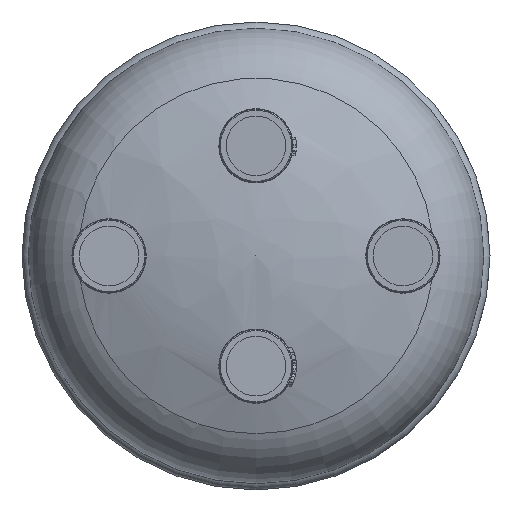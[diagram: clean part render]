
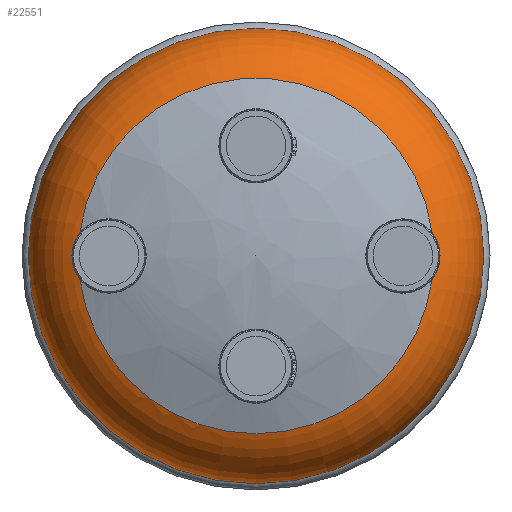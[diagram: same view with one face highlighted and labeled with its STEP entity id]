
A CAD part, front view. The second image highlights one B-rep face of the part: STEP entity #22551.
In plain terms, the highlighted toroidal (fillet/blend) face has major radius 40 mm and minor radius 22 mm.
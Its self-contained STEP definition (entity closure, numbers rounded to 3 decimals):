
#1156=TOROIDAL_SURFACE('',#23939,40.,22.);
#1182=FACE_BOUND('',#4160,.T.);
#1816=B_SPLINE_CURVE_WITH_KNOTS('',3,(#31731,#31732,#31733,#31734,#31735,
#31736,#31737,#31738),.UNSPECIFIED.,.F.,.F.,(4,2,2,4),(-1.351,
-1.061,-0.776,-0.676),.UNSPECIFIED.);
#1824=B_SPLINE_CURVE_WITH_KNOTS('',3,(#31827,#31828,#31829,#31830,#31831,
#31832),.UNSPECIFIED.,.F.,.F.,(4,2,4),(-0.676,-0.399,
0.),.UNSPECIFIED.);
#1827=B_SPLINE_CURVE_WITH_KNOTS('',3,(#31842,#31843,#31844,#31845,#31846,
#31847,#31848,#31849),.UNSPECIFIED.,.F.,.F.,(4,2,2,4),(-1.351,
-1.061,-0.776,-0.676),.UNSPECIFIED.);
#1828=B_SPLINE_CURVE_WITH_KNOTS('',3,(#31851,#31852,#31853,#31854,#31855,
#31856),.UNSPECIFIED.,.F.,.F.,(4,2,4),(-0.676,-0.399,
0.),.UNSPECIFIED.);
#2824=FACE_OUTER_BOUND('',#4159,.T.);
#4159=EDGE_LOOP('',(#15528));
#4160=EDGE_LOOP('',(#15529,#15530,#15531,#15532,#15533,#15534,#15535));
#5604=CIRCLE('',#23890,48.372);
#5605=CIRCLE('',#23891,48.372);
#5606=CIRCLE('',#23892,48.372);
#5621=CIRCLE('',#23940,62.);
#9410=VERTEX_POINT('',#31509);
#9411=VERTEX_POINT('',#31513);
#9412=VERTEX_POINT('',#31525);
#9413=VERTEX_POINT('',#31534);
#9415=VERTEX_POINT('',#31561);
#9422=VERTEX_POINT('',#31726);
#9428=VERTEX_POINT('',#31826);
#9429=VERTEX_POINT('',#31864);
#11796=EDGE_CURVE('',#9410,#9411,#5604,.T.);
#11799=EDGE_CURVE('',#9412,#9413,#5605,.T.);
#11803=EDGE_CURVE('',#9415,#9410,#5606,.T.);
#11825=EDGE_CURVE('',#9415,#9422,#1816,.T.);
#11848=EDGE_CURVE('',#9428,#9411,#1824,.T.);
#11851=EDGE_CURVE('',#9412,#9428,#1827,.T.);
#11852=EDGE_CURVE('',#9422,#9413,#1828,.T.);
#11854=EDGE_CURVE('',#9429,#9429,#5621,.T.);
#15528=ORIENTED_EDGE('',*,*,#11854,.T.);
#15529=ORIENTED_EDGE('',*,*,#11848,.T.);
#15530=ORIENTED_EDGE('',*,*,#11796,.F.);
#15531=ORIENTED_EDGE('',*,*,#11803,.F.);
#15532=ORIENTED_EDGE('',*,*,#11825,.T.);
#15533=ORIENTED_EDGE('',*,*,#11852,.T.);
#15534=ORIENTED_EDGE('',*,*,#11799,.F.);
#15535=ORIENTED_EDGE('',*,*,#11851,.T.);
#22551=ADVANCED_FACE('',(#2824,#1182),#1156,.T.);
#23890=AXIS2_PLACEMENT_3D('',#31514,#25782,#25783);
#23891=AXIS2_PLACEMENT_3D('',#31535,#25784,#25785);
#23892=AXIS2_PLACEMENT_3D('',#31570,#25786,#25787);
#23939=AXIS2_PLACEMENT_3D('',#31863,#25888,#25889);
#23940=AXIS2_PLACEMENT_3D('',#31865,#25890,#25891);
#25782=DIRECTION('center_axis',(0.,-1.,0.));
#25783=DIRECTION('ref_axis',(1.,0.,0.));
#25784=DIRECTION('center_axis',(0.,-1.,0.));
#25785=DIRECTION('ref_axis',(1.,0.,0.));
#25786=DIRECTION('center_axis',(0.,-1.,0.));
#25787=DIRECTION('ref_axis',(1.,0.,0.));
#25888=DIRECTION('center_axis',(0.,-1.,0.));
#25889=DIRECTION('ref_axis',(0.,0.,
1.));
#25890=DIRECTION('center_axis',(0.,-1.,0.));
#25891=DIRECTION('ref_axis',(1.,0.,0.));
#31509=CARTESIAN_POINT('',(0.,-40.445,-48.372));
#31513=CARTESIAN_POINT('',(47.973,-40.445,-6.2));
#31514=CARTESIAN_POINT('Origin',(0.,-40.445,
0.));
#31525=CARTESIAN_POINT('',(47.973,-40.445,6.2));
#31534=CARTESIAN_POINT('',(-47.973,-40.445,6.2));
#31535=CARTESIAN_POINT('Origin',(0.,-40.445,
0.));
#31561=CARTESIAN_POINT('',(-47.973,-40.445,-6.2));
#31570=CARTESIAN_POINT('Origin',(0.,-40.445,
0.));
#31726=CARTESIAN_POINT('',(-50.1,-39.645,0.));
#31731=CARTESIAN_POINT('Ctrl Pts',(-47.973,-40.445,
-6.2));
#31732=CARTESIAN_POINT('Ctrl Pts',(-48.554,-40.247,
-5.453));
#31733=CARTESIAN_POINT('Ctrl Pts',(-49.031,-40.068,
-4.623));
#31734=CARTESIAN_POINT('Ctrl Pts',(-49.732,-39.796,
-2.86));
#31735=CARTESIAN_POINT('Ctrl Pts',(-49.957,-39.703,
-1.94));
#31736=CARTESIAN_POINT('Ctrl Pts',(-50.084,-39.651,
-0.664));
#31737=CARTESIAN_POINT('Ctrl Pts',(-50.1,-39.645,-0.331));
#31738=CARTESIAN_POINT('Ctrl Pts',(-50.1,-39.645,0.));
#31826=CARTESIAN_POINT('',(50.1,-39.645,0.));
#31827=CARTESIAN_POINT('Ctrl Pts',(50.1,-39.645,0.));
#31828=CARTESIAN_POINT('Ctrl Pts',(50.1,-39.645,-0.92));
#31829=CARTESIAN_POINT('Ctrl Pts',(49.975,-39.697,-1.834));
#31830=CARTESIAN_POINT('Ctrl Pts',(49.371,-39.938,-3.994));
#31831=CARTESIAN_POINT('Ctrl Pts',(48.772,-40.173,-5.173));
#31832=CARTESIAN_POINT('Ctrl Pts',(47.973,-40.445,-6.2));
#31842=CARTESIAN_POINT('Ctrl Pts',(47.973,-40.445,6.2));
#31843=CARTESIAN_POINT('Ctrl Pts',(48.554,-40.247,5.453));
#31844=CARTESIAN_POINT('Ctrl Pts',(49.031,-40.068,4.623));
#31845=CARTESIAN_POINT('Ctrl Pts',(49.732,-39.796,2.86));
#31846=CARTESIAN_POINT('Ctrl Pts',(49.957,-39.703,1.94));
#31847=CARTESIAN_POINT('Ctrl Pts',(50.084,-39.651,0.664));
#31848=CARTESIAN_POINT('Ctrl Pts',(50.1,-39.645,0.331));
#31849=CARTESIAN_POINT('Ctrl Pts',(50.1,-39.645,0.));
#31851=CARTESIAN_POINT('Ctrl Pts',(-50.1,-39.645,0.));
#31852=CARTESIAN_POINT('Ctrl Pts',(-50.1,-39.645,
0.92));
#31853=CARTESIAN_POINT('Ctrl Pts',(-49.975,-39.697,
1.834));
#31854=CARTESIAN_POINT('Ctrl Pts',(-49.371,-39.938,3.994));
#31855=CARTESIAN_POINT('Ctrl Pts',(-48.772,-40.173,
5.173));
#31856=CARTESIAN_POINT('Ctrl Pts',(-47.973,-40.445,
6.2));
#31863=CARTESIAN_POINT('Origin',(0.,-20.1,0.));
#31864=CARTESIAN_POINT('',(62.,-20.1,0.));
#31865=CARTESIAN_POINT('Origin',(0.,-20.1,0.));
